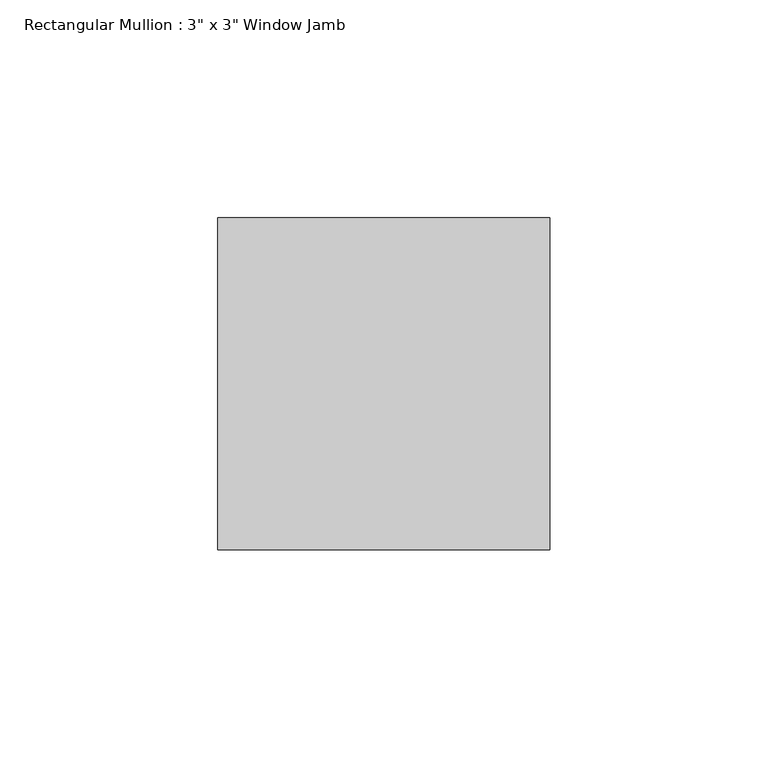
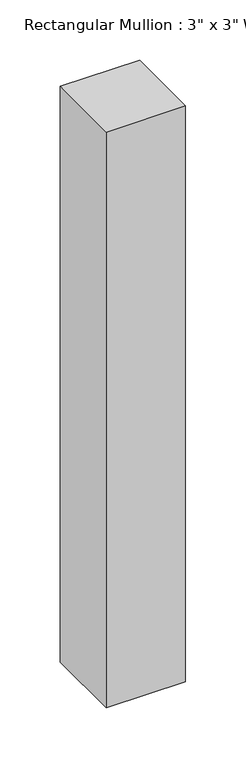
"""IFC4 building model written with IfcOpenShell, lengths in millimetres: member geometry."""

import ifcopenshell
import ifcopenshell.guid

model = None  # the IFC model being written
_history = None  # IfcOwnerHistory: only IFC2X3 demands one
_inside = {}  # id of a spatial element -> (the spatial element, [elements in it])
_under = {}  # id of a project, library or spatial element -> (it, [spatial elements below it])
_declared = {}  # id of a project -> (the project, [libraries it declares])
_typed = {}  # id of a type object -> (the type object, [elements of that type])
_made_of = {}  # id of a material, layer set ... -> (it, [elements and type objects made of it])


def new_model(schema):
    """Start an empty IFC model of exactly this schema.

    Asked for "IFC4X3", IfcOpenShell would pick the latest addendum, in which some entities
    have other attributes; the version numbers below select the first issue.
    IFC2X3 requires an IfcOwnerHistory on every rooted entity: one is made here for all.
    """
    global model, _history
    if schema == "IFC4X3":
        model = ifcopenshell.file(schema_version=(4, 3, 0, 0))
    else:
        model = ifcopenshell.file(schema=schema)
    _inside.clear()
    _under.clear()
    _declared.clear()
    _typed.clear()
    _made_of.clear()
    _history = None
    if model.schema == "IFC2X3":
        org = make("IfcOrganization", Name="unknown")
        user = make(
            "IfcPersonAndOrganization",
            ThePerson=make("IfcPerson", FamilyName="unknown"),
            TheOrganization=org,
        )
        app = make(
            "IfcApplication",
            ApplicationDeveloper=org,
            Version="unknown",
            ApplicationFullName="unknown",
            ApplicationIdentifier="unknown",
        )
        _history = make(
            "IfcOwnerHistory",
            OwningUser=user,
            OwningApplication=app,
            ChangeAction="ADDED",
            CreationDate=0,
        )
    return model


def make(cls, **values):
    """One entity of the class cls with the attributes given. An attribute that is None is left unset."""
    return model.create_entity(
        cls, **{name: value for name, value in values.items() if value is not None}
    )


def rooted(cls, **values):
    """An entity with a GlobalId (a new one), such as an element, a storey or a relation."""
    return make(cls, GlobalId=ifcopenshell.guid.new(), OwnerHistory=_history, **values)


def si_unit(unit_type, name, prefix=None):
    """IfcSIUnit, for example si_unit("LENGTHUNIT", "METRE", prefix="MILLI")."""
    return make("IfcSIUnit", UnitType=unit_type, Prefix=prefix, Name=name)


def assignment(units):
    """IfcUnitAssignment: the units of a project."""
    return None if units is None else make("IfcUnitAssignment", Units=units)


def point(xyz):
    """IfcCartesianPoint."""
    return None if xyz is None else make("IfcCartesianPoint", Coordinates=xyz)


def direction(xyz):
    """IfcDirection."""
    return None if xyz is None else make("IfcDirection", DirectionRatios=xyz)


def frame(location, z_axis=None, x_axis=None):
    """IfcAxis2Placement3D, a coordinate frame: its origin and axes. An axis left out is left unset."""
    return make(
        "IfcAxis2Placement3D",
        Location=point(location),
        Axis=direction(z_axis),
        RefDirection=direction(x_axis),
    )


def origin():
    """The frame at (0, 0, 0) with its axes left unset."""
    return frame((0.0, 0.0, 0.0))


def place(relative_to, where):
    """IfcLocalPlacement: puts the frame where relative to a parent placement (None: the world)."""
    return make(
        "IfcLocalPlacement", PlacementRelTo=relative_to, RelativePlacement=where
    )


def context(
    kind, dimensions, precision=None, world=None, true_north=None, identifier=None
):
    """IfcGeometricRepresentationContext, for example the 3D "Model" context."""
    return make(
        "IfcGeometricRepresentationContext",
        ContextIdentifier=identifier,
        ContextType=kind,
        CoordinateSpaceDimension=dimensions,
        Precision=precision,
        WorldCoordinateSystem=world,
        TrueNorth=true_north,
    )


def project(units=None, contexts=None):
    """IfcProject with its units and contexts."""
    return rooted(
        "IfcProject",
        Name="project",
        RepresentationContexts=contexts,
        UnitsInContext=assignment(units),
    )


def spatial(cls, under=None, at=None, **own):
    """A site, building, storey or space (cls), placed at a placement, below another one or the project."""
    s = rooted(cls, ObjectPlacement=at, **own)
    if under is not None:
        _under.setdefault(under.id(), (under, []))[1].append(s)
    return s


def polyline(points):
    """IfcPolyline through the points."""
    return make("IfcPolyline", Points=[point(p) for p in points])


def outline(outer, holes=None, kind="AREA"):
    """IfcArbitraryClosedProfileDef: a profile drawn as a closed curve; with holes, ...WithVoids."""
    if holes is None:
        return make("IfcArbitraryClosedProfileDef", ProfileType=kind, OuterCurve=outer)
    return make(
        "IfcArbitraryProfileDefWithVoids",
        ProfileType=kind,
        OuterCurve=outer,
        InnerCurves=holes,
    )


def extrude(swept, where, along, depth):
    """IfcExtrudedAreaSolid: the profile swept, set in the frame where, extruded along a direction by depth."""
    return make(
        "IfcExtrudedAreaSolid",
        SweptArea=swept,
        Position=where,
        ExtrudedDirection=direction(along),
        Depth=depth,
    )


def shape(context_of_items, identifier, shape_type, items):
    """IfcShapeRepresentation: the items that make up one representation, for example the "Body"."""
    return make(
        "IfcShapeRepresentation",
        ContextOfItems=context_of_items,
        RepresentationIdentifier=identifier,
        RepresentationType=shape_type,
        Items=items,
    )


def source(mapping_origin, context_of_items, identifier, shape_type, items):
    """IfcRepresentationMap: a shape defined once, which mapped items show again and again."""
    return make(
        "IfcRepresentationMap",
        MappingOrigin=mapping_origin,
        MappedRepresentation=shape(context_of_items, identifier, shape_type, items),
    )


def transform(
    local_origin,
    x_axis=None,
    y_axis=None,
    z_axis=None,
    scale=None,
    scale2=None,
    scale3=None,
    uniform=True,
):
    """IfcCartesianTransformationOperator3D, or its non-uniform kind. x_axis, y_axis, z_axis: its Axis1, 2, 3."""
    if uniform:
        return make(
            "IfcCartesianTransformationOperator3D",
            Axis1=direction(x_axis),
            Axis2=direction(y_axis),
            LocalOrigin=point(local_origin),
            Scale=scale,
            Axis3=direction(z_axis),
        )
    return make(
        "IfcCartesianTransformationOperator3DnonUniform",
        Axis1=direction(x_axis),
        Axis2=direction(y_axis),
        LocalOrigin=point(local_origin),
        Scale=scale,
        Axis3=direction(z_axis),
        Scale2=scale2,
        Scale3=scale3,
    )


def mapped(mapping_source, mapping_target):
    """IfcMappedItem: shows the shape of a source again, moved by a transform."""
    return make(
        "IfcMappedItem", MappingSource=mapping_source, MappingTarget=mapping_target
    )


def made_of(thing, what):
    """Note that an element or type object is made of a material, layer set ...; save() writes the relation."""
    if what is not None:
        _made_of.setdefault(what.id(), (what, []))[1].append(thing)
    return thing


def element(
    cls,
    number,
    at=None,
    inside=None,
    cuts=None,
    type_object=None,
    material=None,
    context=None,
    identifier="Body",
    shape_type=None,
    held_by="IfcProductDefinitionShape",
    body=None,
    shapes=None,
    **own,
):
    """One element of the class cls, such as IfcWall. Its Tag is "e" and its number.

    at: its placement. inside: the storey or other place that contains it. cuts: it is an
    opening in that element (IfcRelVoidsElement). A single representation is given by context,
    identifier, shape_type and body (its items); several are given by shapes. held_by: the class
    of the entity that holds the representations. save() writes the other relations.
    """
    e = rooted(cls, Tag="e%d" % number, ObjectPlacement=at, **own)
    if body is not None:
        shapes = [shape(context, identifier, shape_type, body)]
    if shapes is not None:
        e.Representation = make(held_by, Representations=shapes)
    if inside is not None:
        _inside.setdefault(inside.id(), (inside, []))[1].append(e)
    if cuts is not None:
        rooted(
            "IfcRelVoidsElement", RelatingBuildingElement=cuts, RelatedOpeningElement=e
        )
    if type_object is not None:
        _typed.setdefault(type_object.id(), (type_object, []))[1].append(e)
    return made_of(e, material)


def aggregate(whole, parts):
    """IfcRelAggregates: a whole, such as a stair, and the parts it consists of."""
    return rooted("IfcRelAggregates", RelatingObject=whole, RelatedObjects=parts)


def save(model, path):
    """Write the relations noted so far, then the file.

    IfcRelAggregates (storeys below a building ...), IfcRelContainedInSpatialStructure (elements
    in a storey), IfcRelDefinesByType, IfcRelAssociatesMaterial and IfcRelDeclares: one each for
    every whole, place, type object, material and project.
    """
    for whole, parts in _under.values():
        aggregate(whole, parts)
    for where, things in _inside.values():
        rooted(
            "IfcRelContainedInSpatialStructure",
            RelatedElements=things,
            RelatingStructure=where,
        )
    for kind, things in _typed.values():
        rooted("IfcRelDefinesByType", RelatedObjects=things, RelatingType=kind)
    for what, things in _made_of.values():
        rooted("IfcRelAssociatesMaterial", RelatedObjects=things, RelatingMaterial=what)
    for by, libraries in _declared.values():
        rooted("IfcRelDeclares", RelatingContext=by, RelatedDefinitions=libraries)
    model.write(path)


def member_bacafba3(model_context):
    return source(origin(), model_context, "Body", "SweptSolid", [
        extrude(outline(polyline([(38.1, 25.4), (38.1, -50.8), (-38.1, -50.8), (-38.1, 25.4), (38.1, 25.4)])), frame((0.0, 0.0, -584.2), z_axis=(0.0, 0.0, 1.0), x_axis=(1.0, 0.0, 0.0)), (0.0, 0.0, 1.0), 584.2),
    ])


if __name__ == "__main__":
    model = new_model("IFC4")
    model_context = context("Model", 3, world=origin())
    ifc_project = project(units=[si_unit("LENGTHUNIT", "METRE", prefix="MILLI")], contexts=[model_context])
    site = spatial("IfcSite", under=ifc_project)
    building = spatial("IfcBuilding", under=site)
    placement = place(None, origin())
    member_shape = member_bacafba3(model_context)
    element("IfcMember", 1, ObjectType="Rectangular Mullion : 3\" x 3\" Window Jamb", at=placement, inside=building, context=model_context, shape_type="MappedRepresentation", body=[
        mapped(member_shape, transform((0.0, 0.0, 0.0), x_axis=(1.0, 0.0, 0.0), y_axis=(0.0, 1.0, 0.0), z_axis=(0.0, 0.0, 1.0))),
    ])
    save(model, "model.ifc")
